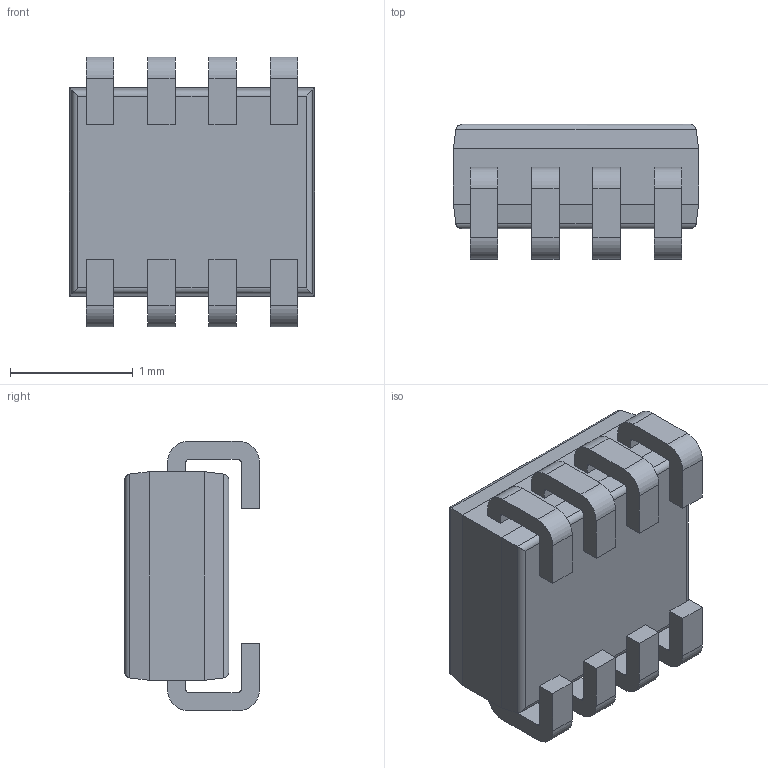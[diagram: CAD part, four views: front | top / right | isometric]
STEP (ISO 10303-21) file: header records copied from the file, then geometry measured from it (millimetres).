
FILE_DESCRIPTION (( 'STEP AP214' ), '1' );
FILE_NAME ( 'SOPL50P220X110-8.STEP', '2014-04-11T12:31:21', ( '' ), ( '' ), 'FPX Expert 2013', 'PCB Libraries', '' );
FILE_SCHEMA (( 'AUTOMOTIVE_DESIGN' ));
Length unit declared in the file: millimetre
Products named in the file (1): SOPL50P220X110-8
Bounding box: 2 x 1.1 x 2.2 mm (x, y, z)
Volume: 3.1 mm3; surface area: 20 mm2
Topology: 9 solids, 9 shells, 137 faces, 338 edges, 220 vertices
Faces by surface type: plane 95, cylinder 40, torus 2
Entity records: 4535 total; most frequent: CARTESIAN_POINT 720, DIRECTION 676, ORIENTED_EDGE 676, EDGE_CURVE 338, VECTOR 260, LINE 260, VERTEX_POINT 220, AXIS2_PLACEMENT_3D 208
